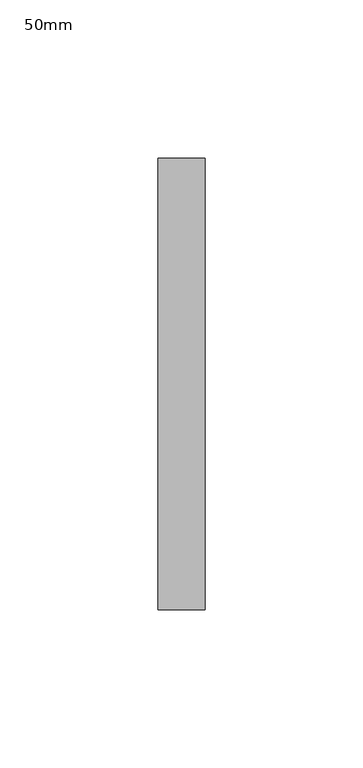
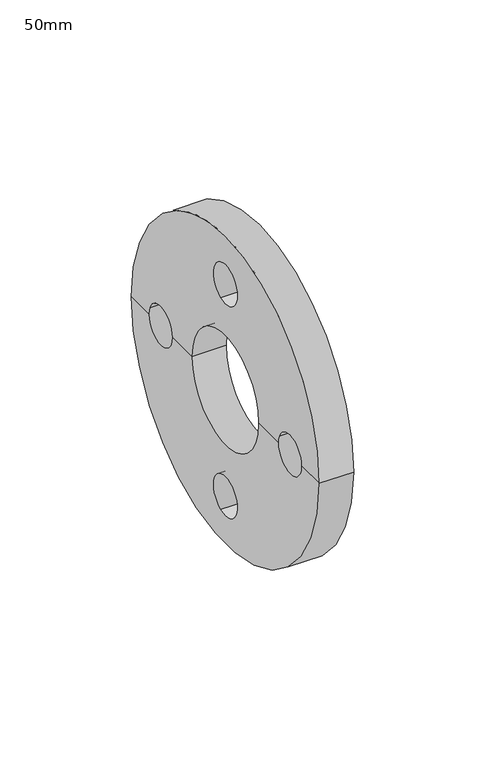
"""IFC4 building model written with IfcOpenShell, lengths in millimetres: pipe fitting geometry, Durapipe_PipeFitting_PVC_BackingFlange : 50mm."""

from ifc_helpers import new_model, si_unit, frame, origin, place, context, project, spatial, polyline, circle_curve, source, transform, mapped, element, save
from ifc_brep_helpers import plane_surface, cylinder_surface, revolved_surface, advanced_brep


def pipe_fitting_50mm_88c0afe9(model_context):
    return source(origin(), model_context, "Body", "AdvancedBrep", [
        advanced_brep(
        [(-7.5, 71.5, 0.0), (7.5, 71.5, 0.0), (7.5, -71.5, 0.0), (-7.5, -71.5, 0.0), (-7.5, -58.1999781, 0.0), (-7.5, -57.5136331, -3.4655053), (-7.5, -40.2000151, 0.0), (-7.5, -25.5, 0.0), (-7.5, 25.5, 0.0), (-7.5, 40.2000151, 0.0), (-7.5, 40.8863602, -3.4289705), (-7.5, 58.1999781, 0.0), (-7.5, 3.4655053, -57.5136331), (-7.5, -3.4289705, -40.8863602), (-7.5, 57.5136331, 3.4655053), (-7.5, -40.8863602, 3.4289705), (-7.5, -3.4655053, 57.5136331), (-7.5, 3.4289705, 40.8863602), (7.5, 25.5, 0.0), (7.5, -25.5, 0.0), (7.5, -40.2000151, 0.0), (7.5, -57.5136331, -3.4655053), (7.5, -58.1999781, 0.0), (7.5, 58.1999781, 0.0), (7.5, 40.8863602, -3.4289705), (7.5, 40.2000151, 0.0), (7.5, -3.4289705, -40.8863602), (7.5, 3.4655053, -57.5136331), (7.5, 57.5136331, 3.4655053), (7.5, -40.8863602, 3.4289705), (7.5, 3.4289705, 40.8863602), (7.5, -3.4655053, 57.5136331)],
        [
            (0, 1),
            (1, 2, circle_curve(frame((7.5, 0.0, 0.0), z_axis=(-1.0, 0.0, 0.0), x_axis=(0.0, 1.0, 0.0)), 71.5)),
            (2, 3),
            (3, 0, circle_curve(frame((-7.5, 0.0, 0.0), z_axis=(1.0, 0.0, 0.0), x_axis=(0.0, 1.0, 0.0)), 71.5)),
            (0, 3, circle_curve(frame((-7.5, 0.0, 0.0), z_axis=(1.0, 0.0, 0.0), x_axis=(0.0, 1.0, 0.0)), 71.5)),
            (2, 1, circle_curve(frame((7.5, 0.0, 0.0), z_axis=(-1.0, 0.0, 0.0), x_axis=(0.0, 1.0, 0.0)), 71.5)),
            (3, 4),
            (4, 5, circle_curve(frame((-7.5, -49.1999966, -0.0182674), z_axis=(1.0, 0.0, 0.0), x_axis=(0.0, -0.9237373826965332, -0.38302643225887)), 9.0)),
            (5, 6, circle_curve(frame((-7.5, -49.1999966, -0.0182674), z_axis=(1.0, 0.0, 0.0), x_axis=(0.0, -0.9237373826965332, -0.38302643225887)), 9.0)),
            (6, 7),
            (7, 8, circle_curve(frame((-7.5, 0.0, 0.0), z_axis=(1.0, 0.0, 0.0), x_axis=(0.0, 1.0, 0.0)), 25.5)),
            (8, 9),
            (9, 10, circle_curve(frame((-7.5, 49.1999966, 0.0182674), z_axis=(1.0, 0.0, 0.0), x_axis=(0.0, 0.92373738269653, 0.3830264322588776)), 9.0)),
            (10, 11, circle_curve(frame((-7.5, 49.1999966, 0.0182674), z_axis=(1.0, 0.0, 0.0), x_axis=(0.0, 0.92373738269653, 0.3830264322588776)), 9.0)),
            (11, 0),
            (12, 13, circle_curve(frame((-7.5, 0.0182674, -49.1999966), z_axis=(1.0, 0.0, 0.0), x_axis=(0.0, 0.3830264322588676, -0.9237373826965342)), 9.0)),
            (13, 12, circle_curve(frame((-7.5, 0.0182674, -49.1999966), z_axis=(1.0, 0.0, 0.0), x_axis=(0.0, 0.3830264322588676, -0.9237373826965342)), 9.0)),
            (11, 14, circle_curve(frame((-7.5, 49.1999966, 0.0182674), z_axis=(1.0, 0.0, 0.0), x_axis=(0.0, 0.92373738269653, 0.3830264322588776)), 9.0)),
            (14, 9, circle_curve(frame((-7.5, 49.1999966, 0.0182674), z_axis=(1.0, 0.0, 0.0), x_axis=(0.0, 0.92373738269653, 0.3830264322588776)), 9.0)),
            (8, 7, circle_curve(frame((-7.5, 0.0, 0.0), z_axis=(1.0, 0.0, 0.0), x_axis=(0.0, 1.0, 0.0)), 25.5)),
            (6, 15, circle_curve(frame((-7.5, -49.1999966, -0.0182674), z_axis=(1.0, 0.0, 0.0), x_axis=(0.0, -0.9237373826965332, -0.38302643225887)), 9.0)),
            (15, 4, circle_curve(frame((-7.5, -49.1999966, -0.0182674), z_axis=(1.0, 0.0, 0.0), x_axis=(0.0, -0.9237373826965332, -0.38302643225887)), 9.0)),
            (16, 17, circle_curve(frame((-7.5, -0.0182674, 49.1999966), z_axis=(1.0, 0.0, 0.0), x_axis=(0.0, -0.3830264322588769, 0.9237373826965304)), 9.0)),
            (17, 16, circle_curve(frame((-7.5, -0.0182674, 49.1999966), z_axis=(1.0, 0.0, 0.0), x_axis=(0.0, -0.3830264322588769, 0.9237373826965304)), 9.0)),
            (18, 8),
            (7, 19),
            (19, 18, circle_curve(frame((7.5, 0.0, 0.0), z_axis=(1.0, 0.0, 0.0), x_axis=(0.0, 1.0, 0.0)), 25.5)),
            (18, 19, circle_curve(frame((7.5, 0.0, 0.0), z_axis=(1.0, 0.0, 0.0), x_axis=(0.0, 1.0, 0.0)), 25.5)),
            (19, 20),
            (20, 21, circle_curve(frame((7.5, -49.1999966, -0.0182674), z_axis=(-1.0, 0.0, 0.0), x_axis=(0.0, -0.9237373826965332, -0.38302643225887)), 9.0)),
            (21, 22, circle_curve(frame((7.5, -49.1999966, -0.0182674), z_axis=(-1.0, 0.0, 0.0), x_axis=(0.0, -0.9237373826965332, -0.38302643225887)), 9.0)),
            (22, 2),
            (1, 23),
            (23, 24, circle_curve(frame((7.5, 49.1999966, 0.0182674), z_axis=(-1.0, 0.0, 0.0), x_axis=(0.0, 0.92373738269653, 0.3830264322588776)), 9.0)),
            (24, 25, circle_curve(frame((7.5, 49.1999966, 0.0182674), z_axis=(-1.0, 0.0, 0.0), x_axis=(0.0, 0.92373738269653, 0.3830264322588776)), 9.0)),
            (25, 18),
            (26, 27, circle_curve(frame((7.5, 0.0182674, -49.1999966), z_axis=(-1.0, 0.0, 0.0), x_axis=(0.0, 0.3830264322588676, -0.9237373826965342)), 9.0)),
            (27, 26, circle_curve(frame((7.5, 0.0182674, -49.1999966), z_axis=(-1.0, 0.0, 0.0), x_axis=(0.0, 0.3830264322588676, -0.9237373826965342)), 9.0)),
            (25, 28, circle_curve(frame((7.5, 49.1999966, 0.0182674), z_axis=(-1.0, 0.0, 0.0), x_axis=(0.0, 0.92373738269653, 0.3830264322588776)), 9.0)),
            (28, 23, circle_curve(frame((7.5, 49.1999966, 0.0182674), z_axis=(-1.0, 0.0, 0.0), x_axis=(0.0, 0.92373738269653, 0.3830264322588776)), 9.0)),
            (22, 29, circle_curve(frame((7.5, -49.1999966, -0.0182674), z_axis=(-1.0, 0.0, 0.0), x_axis=(0.0, -0.9237373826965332, -0.38302643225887)), 9.0)),
            (29, 20, circle_curve(frame((7.5, -49.1999966, -0.0182674), z_axis=(-1.0, 0.0, 0.0), x_axis=(0.0, -0.9237373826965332, -0.38302643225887)), 9.0)),
            (30, 31, circle_curve(frame((7.5, -0.0182674, 49.1999966), z_axis=(-1.0, 0.0, 0.0), x_axis=(0.0, -0.3830264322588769, 0.9237373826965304)), 9.0)),
            (31, 30, circle_curve(frame((7.5, -0.0182674, 49.1999966), z_axis=(-1.0, 0.0, 0.0), x_axis=(0.0, -0.3830264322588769, 0.9237373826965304)), 9.0)),
            (26, 13),
            (12, 27),
            (24, 10),
            (14, 28),
            (30, 17),
            (16, 31),
            (29, 15),
            (5, 21),
        ],
        [
            cylinder_surface(frame((-26.2738734, 0.0, 0.0), z_axis=(-1.0, 0.0, 0.0), x_axis=(0.0, 1.0, 0.0)), 71.5),
            plane_surface(frame((-7.5, 0.0, 0.0), z_axis=(-1.0, 0.0, 0.0), x_axis=(0.0, 1.0, 0.0))),
            revolved_surface(polyline([(-7.5, 25.5, 0.0), (7.5, 25.5, 0.0)]), (-26.2738734, 0.0, 0.0), (-1.0, 0.0, 0.0)),
            plane_surface(frame((7.5, 0.0, 0.0), z_axis=(1.0, 0.0, 0.0), x_axis=(0.0, 1.0, 0.0))),
            revolved_surface(polyline([(-7.500000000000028, 3.4655052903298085, -57.51363304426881), (7.499999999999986, 3.4655052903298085, -57.51363304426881)]), (42.5, 0.0182674, -49.1999966), (-1.0000000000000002, 0.0, 0.0)),
            revolved_surface(polyline([(-7.5, 57.51363304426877, 3.4655052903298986), (7.5, 57.51363304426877, 3.4655052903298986)]), (42.5, 49.1999966, 0.0182674), (-1.0, 0.0, 0.0)),
            revolved_surface(polyline([(-7.500000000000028, -3.465505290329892, 57.51363304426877), (7.499999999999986, -3.465505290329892, 57.51363304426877)]), (42.5, -0.0182674, 49.1999966), (-1.0000000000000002, 0.0, 0.0)),
            revolved_surface(polyline([(-7.5, -57.5136330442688, -3.4655052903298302), (7.5, -57.5136330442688, -3.4655052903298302)]), (42.5, -49.1999966, -0.0182674), (-1.0, 0.0, 0.0)),
        ],
        [
            (0, [[1, 2, 3, 4]]),
            (0, [[-1, 5, -3, 6]]),
            (1, [[-4, 7, 8, 9, 10, 11, 12, 13, 14, 15], [16, 17]]),
            (1, [[-5, -15, 18, 19, -12, 20, -10, 21, 22, -7], [23, 24]]),
            (2, [[25, -11, 26, 27]]),
            (2, [[-25, 28, -26, -20]]),
            (3, [[-27, 29, 30, 31, 32, -2, 33, 34, 35, 36], [37, 38]]),
            (3, [[-28, -36, 39, 40, -33, -6, -32, 41, 42, -29], [43, 44]]),
            (4, [[45, -16, 46, -37]]),
            (4, [[-45, -38, -46, -17]]),
            (5, [[47, -13, -19, 48, -39, -35]]),
            (5, [[-47, -34, -40, -48, -18, -14]]),
            (6, [[49, -23, 50, -43]]),
            (6, [[-49, -44, -50, -24]]),
            (7, [[51, -21, -9, 52, -30, -42]]),
            (7, [[-51, -41, -31, -52, -8, -22]]),
        ],
    ),
    ])


if __name__ == "__main__":
    model = new_model("IFC4")
    model_context = context("Model", 3, world=origin())
    ifc_project = project(units=[si_unit("LENGTHUNIT", "METRE", prefix="MILLI")], contexts=[model_context])
    site = spatial("IfcSite", under=ifc_project)
    building = spatial("IfcBuilding", under=site)
    placement = place(None, origin())
    pipe_fitting_50mm_shape = pipe_fitting_50mm_88c0afe9(model_context)
    element("IfcPipeFitting", 1, ObjectType="Durapipe_PipeFitting_PVC_BackingFlange : 50mm", at=placement, inside=building, context=model_context, shape_type="MappedRepresentation", body=[
        mapped(pipe_fitting_50mm_shape, transform((0.0, 0.0, 0.0), x_axis=(1.0, 0.0, 0.0), y_axis=(0.0, 1.0, 0.0), z_axis=(0.0, 0.0, 1.0))),
    ])
    save(model, "model.ifc")
